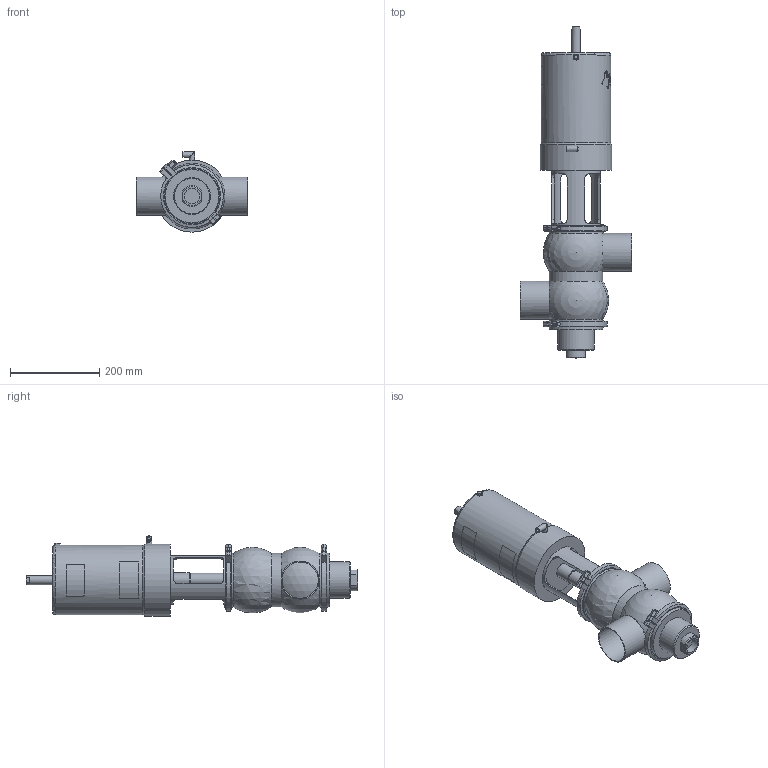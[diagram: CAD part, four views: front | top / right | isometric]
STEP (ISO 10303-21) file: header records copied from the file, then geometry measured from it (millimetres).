
FILE_DESCRIPTION (( 'STEP AP214' ), '1' );
FILE_NAME ('INNOVA S DC-180 W DIN 080_10.251.16.0009.STEP', '2024-08-20T10:24:28', ( '' ), ( '' ), 'SwSTEP 2.0', 'SolidWorks 2023', '' );
FILE_SCHEMA (( 'AUTOMOTIVE_DESIGN' ));
Length unit declared in the file: millimetre
Products named in the file (6): 10.251.15.0002_DN 080; 10.240.15.0001_DN 080; 10.250.15.0002_Type S T2; INNOVA S DC-180 W DIN 080_10.251.16.0009; 10.251.15.0011_DIN 080; 10.251.15.0001_DN 080
Assembly tree (6 placements, depth 2):
  INNOVA S DC-180 W DIN 080_10.251.16.0009
    10.251.15.0001_DN 080
    10.250.15.0002_Type S T2
    10.251.15.0011_DIN 080
    10.240.15.0001_DN 080  x2
    10.251.15.0002_DN 080
Bounding box: 250 x 743 x 179.5 mm (x, y, z)
Volume: 9070731.4 mm3; surface area: 550610.1 mm2
Topology: 6 solids, 6 shells, 419 faces, 1095 edges, 712 vertices
Faces by surface type: plane 200, cylinder 107, bspline 80, cone 27, sphere 4, torus 1
Full cylindrical faces by diameter (mm): 4.2 x2, 5 x1, 6 x1, 6.15 x1, 8 x4, 8.5 x1, 10.5 x2, 12.5 x6, 20 x1, 30.5 x1, 32 x1, 35 x1, 81 x2, 82 x1, 85 x2, 109 x1, 109.1 x1, 120 x4, 132 x4, 156 x1, 161 x1
Entity records: 22119 total; most frequent: CARTESIAN_POINT 12111, ORIENTED_EDGE 1718, DIRECTION 1331, EDGE_CURVE 859, VERTEX_POINT 587, AXIS2_PLACEMENT_3D 510, EDGE_LOOP 446, FACE_OUTER_BOUND 399
